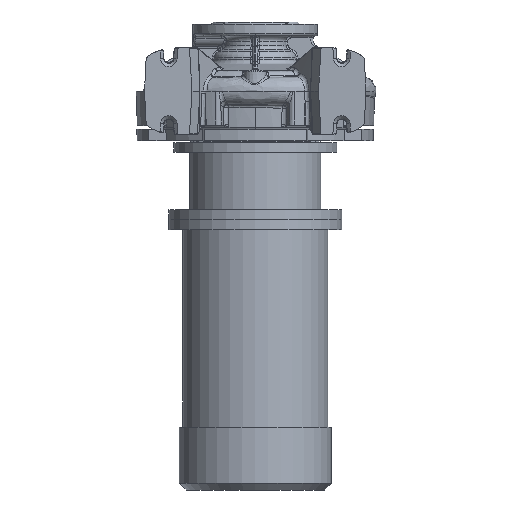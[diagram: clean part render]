
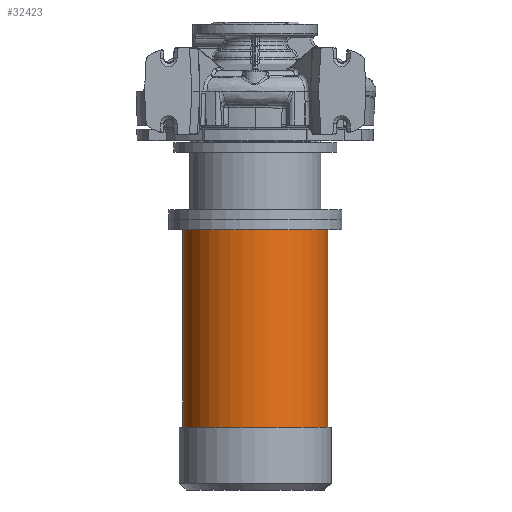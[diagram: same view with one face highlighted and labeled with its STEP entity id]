
A CAD part, front view. The second image highlights one B-rep face of the part: STEP entity #32423.
In plain terms, the highlighted cylindrical face has radius 105 mm (diameter 210 mm), a partial arc.
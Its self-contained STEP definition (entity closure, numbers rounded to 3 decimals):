
#2506 = VECTOR ( 'NONE', #78489, 1000. ) ;
#7285 = DIRECTION ( 'NONE',  ( 0., 0., -1. ) ) ;
#7579 = DIRECTION ( 'NONE',  ( -1., 0., 0. ) ) ;
#7873 = CARTESIAN_POINT ( 'NONE',  ( 0., 0., -576.3 ) ) ;
#11146 = LINE ( 'NONE', #70413, #2506 ) ;
#11556 = DIRECTION ( 'NONE',  ( -1., 0., 0. ) ) ;
#13044 = CYLINDRICAL_SURFACE ( 'NONE', #36792, 105. ) ;
#13317 = DIRECTION ( 'NONE',  ( 0., 0., -1. ) ) ;
#14251 = EDGE_CURVE ( 'NONE', #80918, #27963, #37474, .T. ) ;
#15754 = ORIENTED_EDGE ( 'NONE', *, *, #54170, .T. ) ;
#17685 = CARTESIAN_POINT ( 'NONE',  ( 105., 0., -485.3 ) ) ;
#18567 = ORIENTED_EDGE ( 'NONE', *, *, #31405, .F. ) ;
#19914 = CARTESIAN_POINT ( 'NONE',  ( 105., 0., -576.3 ) ) ;
#22972 = VECTOR ( 'NONE', #13317, 1000. ) ;
#27963 = VERTEX_POINT ( 'NONE', #42177 ) ;
#31405 = EDGE_CURVE ( 'NONE', #80918, #80315, #66030, .T. ) ;
#32423 = ADVANCED_FACE ( 'NONE', ( #39955 ), #13044, .T. ) ;
#35990 = DIRECTION ( 'NONE',  ( -1., 0., 0. ) ) ;
#36792 = AXIS2_PLACEMENT_3D ( 'NONE', #7873, #7285, #7579 ) ;
#37067 = AXIS2_PLACEMENT_3D ( 'NONE', #52526, #72847, #11556 ) ;
#37474 = CIRCLE ( 'NONE', #83987, 105. ) ;
#39211 = EDGE_LOOP ( 'NONE', ( #18567, #65897, #15754, #57629 ) ) ;
#39955 = FACE_OUTER_BOUND ( 'NONE', #39211, .T. ) ;
#40731 = CIRCLE ( 'NONE', #37067, 105. ) ;
#42177 = CARTESIAN_POINT ( 'NONE',  ( -105., 0., -200.3 ) ) ;
#42673 = CARTESIAN_POINT ( 'NONE',  ( 0., 0., -200.3 ) ) ;
#47635 = CARTESIAN_POINT ( 'NONE',  ( -105., 0., -485.3 ) ) ;
#48234 = EDGE_CURVE ( 'NONE', #80315, #52157, #40731, .T. ) ;
#52157 = VERTEX_POINT ( 'NONE', #47635 ) ;
#52526 = CARTESIAN_POINT ( 'NONE',  ( 0., 0., -485.3 ) ) ;
#54170 = EDGE_CURVE ( 'NONE', #27963, #52157, #11146, .T. ) ;
#57629 = ORIENTED_EDGE ( 'NONE', *, *, #48234, .F. ) ;
#62476 = DIRECTION ( 'NONE',  ( 0., 0., -1. ) ) ;
#65897 = ORIENTED_EDGE ( 'NONE', *, *, #14251, .T. ) ;
#66030 = LINE ( 'NONE', #19914, #22972 ) ;
#70413 = CARTESIAN_POINT ( 'NONE',  ( -105., 0., -576.3 ) ) ;
#72847 = DIRECTION ( 'NONE',  ( 0., 0., -1. ) ) ;
#78489 = DIRECTION ( 'NONE',  ( 0., 0., -1. ) ) ;
#80315 = VERTEX_POINT ( 'NONE', #17685 ) ;
#80918 = VERTEX_POINT ( 'NONE', #87210 ) ;
#83987 = AXIS2_PLACEMENT_3D ( 'NONE', #42673, #62476, #35990 ) ;
#87210 = CARTESIAN_POINT ( 'NONE',  ( 105., 0., -200.3 ) ) ;
